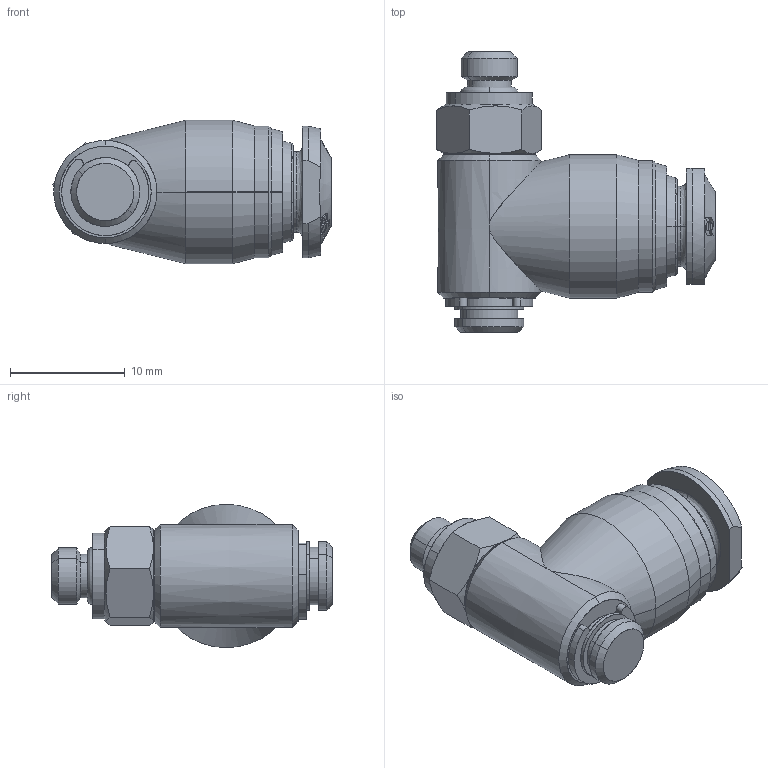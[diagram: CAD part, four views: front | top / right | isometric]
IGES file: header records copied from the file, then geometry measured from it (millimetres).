
Start section: SolidWorks IGES file using analytic representation for surfaces
Global section: file name: K:\Disegni Esecutivi\Serie 50000\ASSIEMI\50550\ASSIEMI_PIENI_50550\5055000012.IGS; native system: SolidWorks 2007; preprocessor: SolidWorks 2007; author: cad02; date: 071016.145937; units: millimetre
Bounding box: 24.28 x 24.5 x 12.5 mm (x, y, z)
Surface area: 1902.7 mm2 (no closed solid volume)
Topology: 0 solids, 0 shells, 314 faces, 3559 edges, 3557 vertices
Faces by surface type: bspline 184, revolution 130
